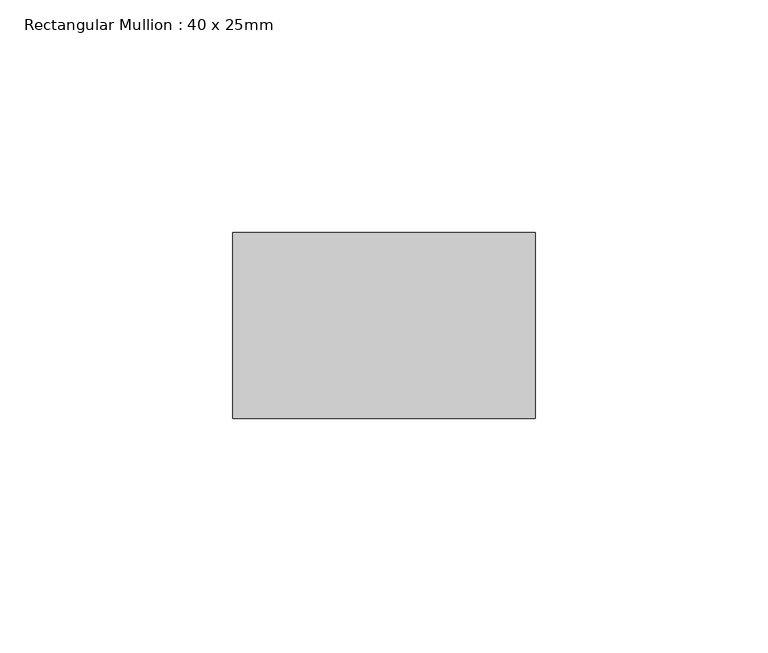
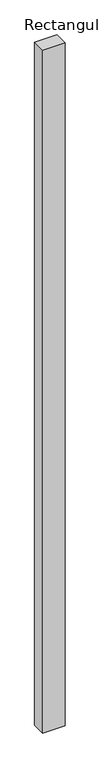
"""IFC4 building model written with IfcOpenShell, lengths in millimetres: member geometry, Rectangular Mullion : 40 x 25mm."""

from ifc_helpers import new_model, si_unit, frame, origin, place, context, project, spatial, polyline, outline, extrude, source, transform, mapped, element, save


def rectangular_mullion_40_x_25mm_50b0f9db(model_context):
    return source(origin(), model_context, "Body", "SweptSolid", [
        extrude(outline(polyline([(0.0, -20.0), (0.0, -60.0), (-65.0, -60.0), (-65.0, -20.0), (0.0, -20.0)])), frame((0.0, 0.0, -2100.6507513), z_axis=(0.0, 0.0, 1.0), x_axis=(1.0, 0.0, 0.0)), (0.0, 0.0, 1.0), 2100.6507513),
    ])


if __name__ == "__main__":
    model = new_model("IFC4")
    model_context = context("Model", 3, world=origin())
    ifc_project = project(units=[si_unit("LENGTHUNIT", "METRE", prefix="MILLI")], contexts=[model_context])
    site = spatial("IfcSite", under=ifc_project)
    building = spatial("IfcBuilding", under=site)
    placement = place(None, origin())
    rectangular_mullion_40_x_25mm_shape = rectangular_mullion_40_x_25mm_50b0f9db(model_context)
    element("IfcMember", 1, ObjectType="Rectangular Mullion : 40 x 25mm", at=placement, inside=building, context=model_context, shape_type="MappedRepresentation", body=[
        mapped(rectangular_mullion_40_x_25mm_shape, transform((0.0, 0.0, 0.0), x_axis=(1.0, 0.0, 0.0), y_axis=(0.0, 1.0, 0.0), z_axis=(0.0, 0.0, 1.0))),
    ])
    save(model, "model.ifc")
